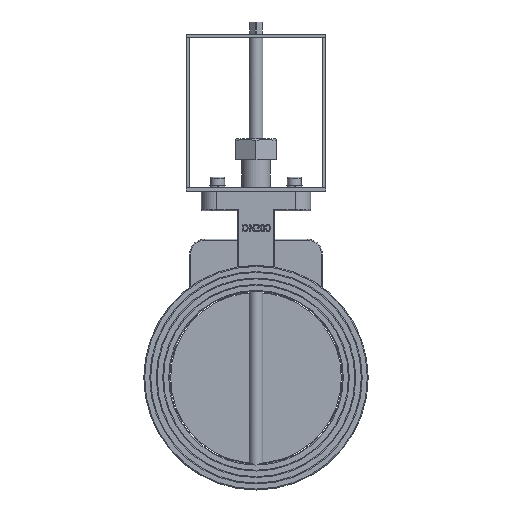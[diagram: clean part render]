
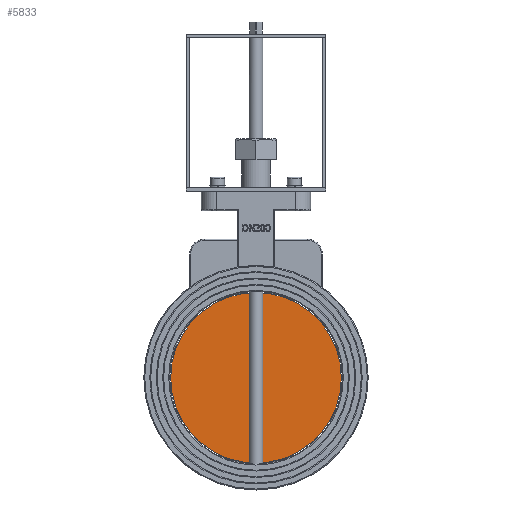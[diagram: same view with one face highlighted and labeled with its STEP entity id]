
A CAD part, top view. The second image highlights one B-rep face of the part: STEP entity #5833.
In plain terms, the highlighted planar face has unit normal (0, 0, 1) as drawn and (0, 0, -1) by its records, which use the part's own axes.
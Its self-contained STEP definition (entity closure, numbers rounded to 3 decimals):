
#1793=FACE_OUTER_BOUND('',#2265,.T.);
#2265=EDGE_LOOP('',(#5269));
#2496=CIRCLE('',#6361,97.75);
#3019=VERTEX_POINT('',#10245);
#3775=EDGE_CURVE('',#3019,#3019,#2496,.T.);
#5269=ORIENTED_EDGE('',*,*,#3775,.T.);
#5500=PLANE('',#6362);
#5833=ADVANCED_FACE('',(#1793),#5500,.F.);
#6361=AXIS2_PLACEMENT_3D('',#10246,#7811,#7812);
#6362=AXIS2_PLACEMENT_3D('',#10247,#7813,#7814);
#7811=DIRECTION('center_axis',(0.,0.,-1.));
#7812=DIRECTION('ref_axis',(-1.,0.,0.));
#7813=DIRECTION('center_axis',(0.,0.,1.));
#7814=DIRECTION('ref_axis',(1.,0.,0.));
#10245=CARTESIAN_POINT('',(97.75,0.,0.));
#10246=CARTESIAN_POINT('Origin',(0.,0.,0.));
#10247=CARTESIAN_POINT('Origin',(0.,0.,0.));
